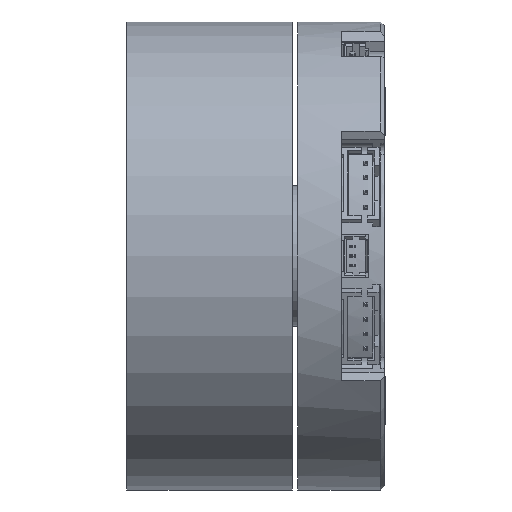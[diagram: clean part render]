
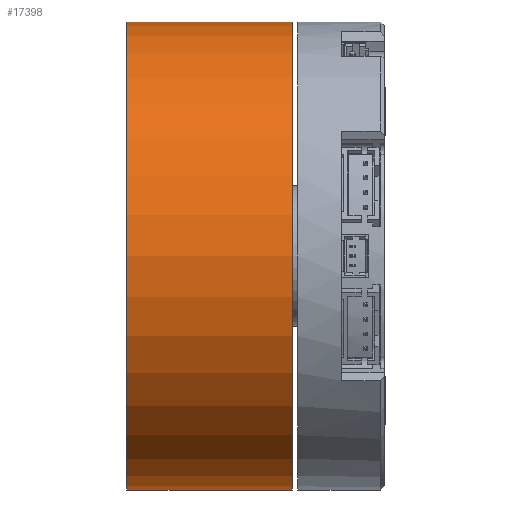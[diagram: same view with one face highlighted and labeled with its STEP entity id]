
A CAD part, left-side view. The second image highlights one B-rep face of the part: STEP entity #17398.
In plain terms, the highlighted cylindrical face has radius 30 mm (diameter 60 mm), a partial arc.
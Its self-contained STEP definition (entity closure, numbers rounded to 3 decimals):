
#84 = VERTEX_POINT ( 'NONE', #35431 ) ;
#779 = AXIS2_PLACEMENT_3D ( 'NONE', #13581, #9000, #25336 ) ;
#1689 = ORIENTED_EDGE ( 'NONE', *, *, #25842, .F. ) ;
#4831 = DIRECTION ( 'NONE',  ( 0., -1., 0. ) ) ;
#6068 = CIRCLE ( 'NONE', #50570, 30. ) ;
#9000 = DIRECTION ( 'NONE',  ( 0., 1., 0. ) ) ;
#11761 = CIRCLE ( 'NONE', #50255, 30. ) ;
#12609 = CARTESIAN_POINT ( 'NONE',  ( 0., -106.053, 30. ) ) ;
#13581 = CARTESIAN_POINT ( 'NONE',  ( 0., -106.053, 0. ) ) ;
#17296 = CYLINDRICAL_SURFACE ( 'NONE', #779, 30. ) ;
#17398 = ADVANCED_FACE ( 'NONE', ( #50275 ), #17296, .T. ) ;
#20603 = EDGE_CURVE ( 'NONE', #45976, #32389, #42341, .T. ) ;
#20670 = VECTOR ( 'NONE', #28956, 1000. ) ;
#21236 = DIRECTION ( 'NONE',  ( 0., 1., 0. ) ) ;
#22448 = VECTOR ( 'NONE', #41599, 1000. ) ;
#24416 = ORIENTED_EDGE ( 'NONE', *, *, #45115, .F. ) ;
#25197 = DIRECTION ( 'NONE',  ( 0., 0., -1. ) ) ;
#25336 = DIRECTION ( 'NONE',  ( 0., 0., 1. ) ) ;
#25538 = DIRECTION ( 'NONE',  ( 0., 0., 1. ) ) ;
#25842 = EDGE_CURVE ( 'NONE', #38505, #84, #30086, .T. ) ;
#28956 = DIRECTION ( 'NONE',  ( 0., 1., 0. ) ) ;
#30086 = LINE ( 'NONE', #34373, #22448 ) ;
#32389 = VERTEX_POINT ( 'NONE', #37099 ) ;
#33441 = ORIENTED_EDGE ( 'NONE', *, *, #41553, .F. ) ;
#34373 = CARTESIAN_POINT ( 'NONE',  ( 0., -106.053, -30. ) ) ;
#35431 = CARTESIAN_POINT ( 'NONE',  ( 0., 0., -30. ) ) ;
#37099 = CARTESIAN_POINT ( 'NONE',  ( 0., 0., 30. ) ) ;
#38505 = VERTEX_POINT ( 'NONE', #46787 ) ;
#41548 = CARTESIAN_POINT ( 'NONE',  ( 0., -21.2, 0. ) ) ;
#41553 = EDGE_CURVE ( 'NONE', #84, #32389, #11761, .T. ) ;
#41599 = DIRECTION ( 'NONE',  ( 0., 1., 0. ) ) ;
#42341 = LINE ( 'NONE', #12609, #20670 ) ;
#45115 = EDGE_CURVE ( 'NONE', #45976, #38505, #6068, .T. ) ;
#45459 = CARTESIAN_POINT ( 'NONE',  ( 0., -21.2, 30. ) ) ;
#45905 = CARTESIAN_POINT ( 'NONE',  ( 0., 0., 0. ) ) ;
#45976 = VERTEX_POINT ( 'NONE', #45459 ) ;
#46787 = CARTESIAN_POINT ( 'NONE',  ( 0., -21.2, -30. ) ) ;
#47044 = ORIENTED_EDGE ( 'NONE', *, *, #20603, .T. ) ;
#50255 = AXIS2_PLACEMENT_3D ( 'NONE', #45905, #21236, #25538 ) ;
#50275 = FACE_OUTER_BOUND ( 'NONE', #52538, .T. ) ;
#50570 = AXIS2_PLACEMENT_3D ( 'NONE', #41548, #4831, #25197 ) ;
#52538 = EDGE_LOOP ( 'NONE', ( #1689, #24416, #47044, #33441 ) ) ;
